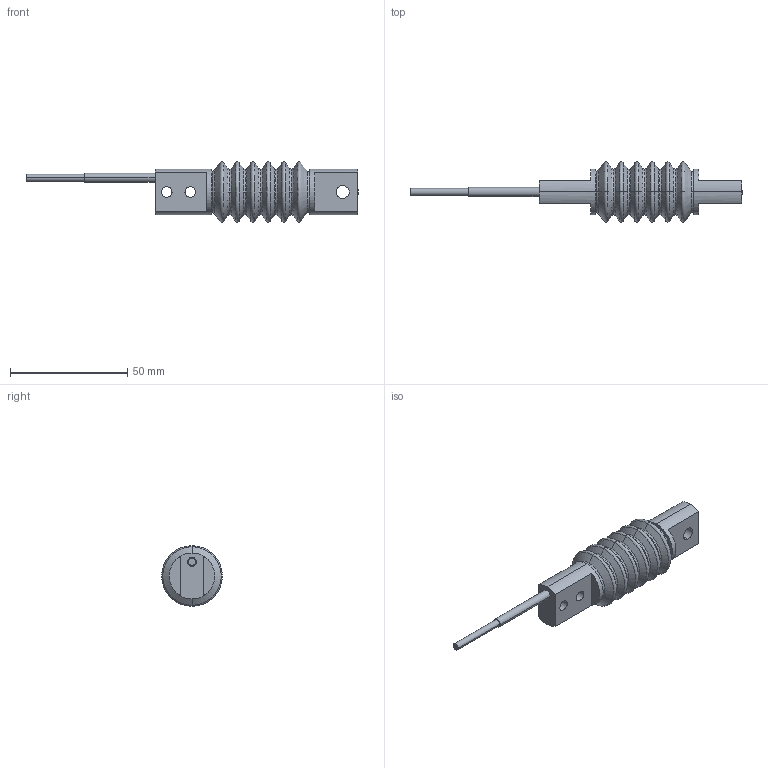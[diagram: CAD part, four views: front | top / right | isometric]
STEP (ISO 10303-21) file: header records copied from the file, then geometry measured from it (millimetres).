
FILE_DESCRIPTION(('STEP AP203'),'1');
FILE_NAME('C:/TPO v2/SharedFS/Outgoing/burster_8511-5050_dd0stbqfv8p8wadwfak5hewif.stp','2013-08-26T19:40:55',('TraceParts'),('TraceParts S.A.'),'XStep 1.0',' ',' ');
FILE_SCHEMA(('CONFIG_CONTROL_DESIGN'));
Length unit declared in the file: millimetre
Products named in the file (1): 1
Bounding box: 141.51 x 25.78 x 25.78 mm (x, y, z)
Volume: 25190.6 mm3; surface area: 8412.4 mm2
Topology: 1 solids, 1 shells, 100 faces, 241 edges, 148 vertices
Faces by surface type: cone 28, torus 22, plane 18, cylinder 16, bspline 16
Entity records: 4128 total; most frequent: CARTESIAN_POINT 1751, DIRECTION 523, ORIENTED_EDGE 482, EDGE_CURVE 241, AXIS2_PLACEMENT_3D 227, VERTEX_POINT 148, CIRCLE 142, EDGE_LOOP 111
